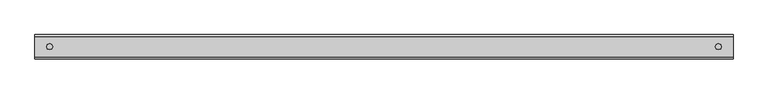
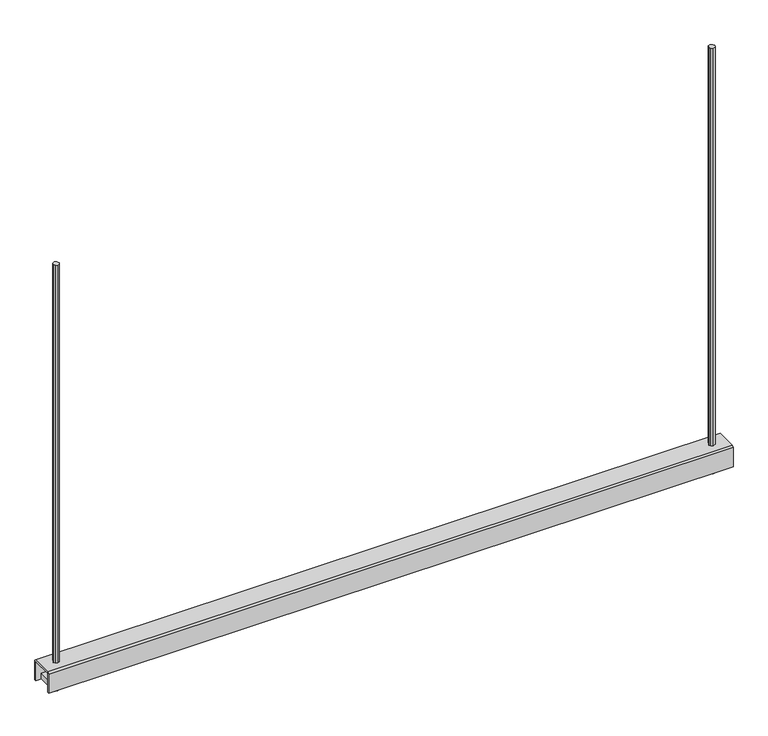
"""IFC4 building model written with IfcOpenShell, lengths in millimetres: proxy geometry, Beared-Hanger : BearedHanger."""

from ifc_helpers import new_model, si_unit, frame, origin, place, context, project, spatial, polyline, outline, extrude, source, transform, mapped, element, save


def mechanical_equipment_5372400f(model_context):
    return source(origin(), model_context, "Body", "SweptSolid", [
        extrude(outline(polyline([(533.0026245, -17.3962402), (533.0026245, 16.7883301), (562.819519, 16.7883301), (562.819519, -17.3962402), (533.0026245, -17.3962402)])), frame((0.0, 0.0, -738.7598182), z_axis=(0.0, 0.0, 1.0), x_axis=(1.0, 0.0, 0.0)), (0.0, 0.0, 1.0), 10.0),
        extrude(outline(polyline([(547.9110718, 5.0), (551.446228, 3.5351562), (552.9116821, 0.0), (551.446228, -3.5351563), (547.9110718, -5.0), (544.3759155, -3.5351563), (542.9110718, 0.0), (544.3759155, 3.5351562), (547.9110718, 5.0)])), frame((0.0, 0.0, -752.344413), z_axis=(0.0, 0.0, 1.0), x_axis=(1.0, 0.0, 0.0)), (0.0, 0.0, 1.0), 752.344413),
        extrude(outline(polyline([(-533.0026245, 16.7883301), (-533.0026245, -17.3962402), (-562.819519, -17.3962402), (-562.819519, 16.7883301), (-533.0026245, 16.7883301)])), frame((0.0, 0.0, -738.7598182), z_axis=(0.0, 0.0, 1.0), x_axis=(1.0, 0.0, 0.0)), (0.0, 0.0, 1.0), 10.0),
        extrude(outline(polyline([(-547.9110718, 5.0), (-544.3759155, 3.5351563), (-542.9110718, 0.0), (-544.3759155, -3.5351562), (-547.9110718, -5.0), (-551.446228, -3.5351562), (-552.9116821, 0.0), (-551.446228, 3.5351563), (-547.9110718, 5.0)])), frame((0.0, 0.0, -752.344413), z_axis=(0.0, 0.0, 1.0), x_axis=(1.0, 0.0, 0.0)), (0.0, 0.0, 1.0), 752.344413),
        extrude(outline(polyline([(-17.8259277, -702.344413), (17.1740723, -702.344413), (19.6740723, -704.8441078), (19.6740723, -738.7598182), (16.7883301, -738.7598182), (16.7883301, -705.3442909), (-17.3962402, -705.3442909), (-17.3962402, -738.7598182), (-20.3259277, -738.7598182), (-20.3259277, -704.8441078), (-17.8259277, -702.344413)])), frame((-571.9555664, 0.0, 0.0), z_axis=(1.0, 0.0, 0.0), x_axis=(0.0, 1.0, 0.0)), (0.0, 0.0, 1.0), 1143.9111328),
    ])


if __name__ == "__main__":
    model = new_model("IFC4")
    model_context = context("Model", 3, world=origin())
    ifc_project = project(units=[si_unit("LENGTHUNIT", "METRE", prefix="MILLI")], contexts=[model_context])
    site = spatial("IfcSite", under=ifc_project)
    building = spatial("IfcBuilding", under=site)
    placement = place(None, origin())
    mechanical_equipment_shape = mechanical_equipment_5372400f(model_context)
    element("IfcBuildingElementProxy", 1, Name="Beared-Hanger : BearedHanger", ObjectType="Beared-Hanger : BearedHanger", at=placement, inside=building, context=model_context, shape_type="MappedRepresentation", body=[
        mapped(mechanical_equipment_shape, transform((0.0, 0.0, 0.0), x_axis=(1.0, 0.0, 0.0), y_axis=(0.0, 1.0, 0.0), z_axis=(0.0, 0.0, 1.0))),
    ])
    save(model, "model.ifc")
